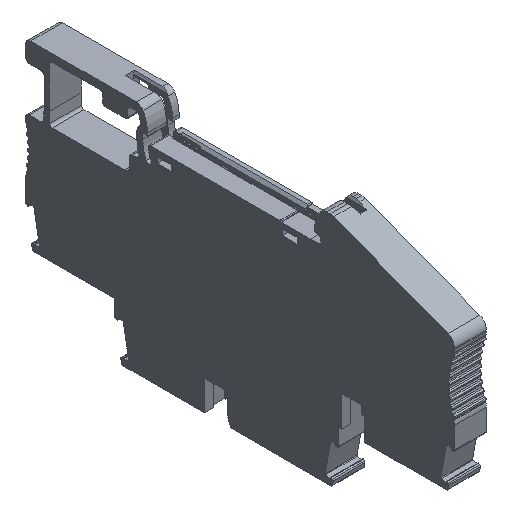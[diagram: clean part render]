
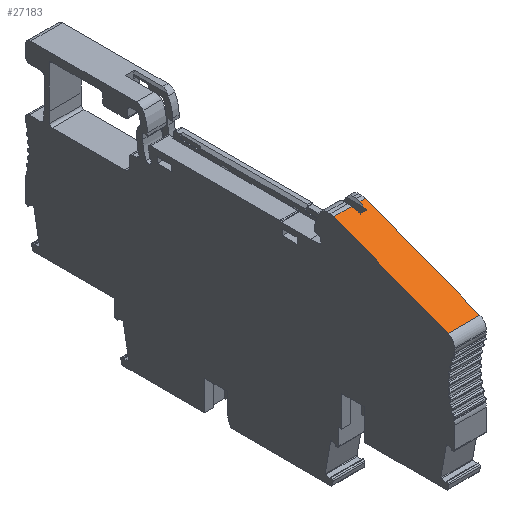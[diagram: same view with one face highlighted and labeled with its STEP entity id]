
A CAD part, isometric view. The second image highlights one B-rep face of the part: STEP entity #27183.
In plain terms, the highlighted planar face has unit normal (0, -0.359, 0.933).
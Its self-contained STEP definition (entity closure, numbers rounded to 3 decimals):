
#836=DIRECTION('',(0.,-0.933,-0.359));
#837=VECTOR('',#836,23.891);
#838=CARTESIAN_POINT('',(0.,-41.094,
45.717));
#839=LINE('',#838,#837);
#2847=DIRECTION('',(0.,0.933,0.359));
#2848=VECTOR('',#2847,23.891);
#2849=CARTESIAN_POINT('',(-6.2,-63.394,
37.143));
#2850=LINE('',#2849,#2848);
#8069=DIRECTION('',(0.,0.933,0.359));
#8070=VECTOR('',#8069,0.566);
#8071=CARTESIAN_POINT('',(-1.3,-42.576,
45.147));
#8072=LINE('',#8071,#8070);
#8643=DIRECTION('',(0.,-0.933,-0.359));
#8644=VECTOR('',#8643,0.566);
#8645=CARTESIAN_POINT('',(-2.5,-42.048,
45.35));
#8646=LINE('',#8645,#8644);
#8886=DIRECTION('',(1.,0.,0.));
#8887=VECTOR('',#8886,1.2);
#8888=CARTESIAN_POINT('',(-2.5,-42.576,
45.147));
#8889=LINE('',#8888,#8887);
#8894=DIRECTION('',(1.,0.,0.));
#8895=VECTOR('',#8894,3.48);
#8896=CARTESIAN_POINT('',(-6.2,-41.094,
45.717));
#8897=LINE('',#8896,#8895);
#9231=DIRECTION('',(0.21,-0.912,-0.351));
#9232=VECTOR('',#9231,1.045);
#9233=CARTESIAN_POINT('',(-2.72,-41.094,
45.717));
#9234=LINE('',#9233,#9232);
#9249=DIRECTION('',(0.21,0.912,0.351));
#9250=VECTOR('',#9249,1.045);
#9251=CARTESIAN_POINT('',(-1.3,-42.048,
45.35));
#9252=LINE('',#9251,#9250);
#9271=DIRECTION('',(1.,0.,0.));
#9272=VECTOR('',#9271,1.08);
#9273=CARTESIAN_POINT('',(-1.08,-41.094,
45.717));
#9274=LINE('',#9273,#9272);
#9303=DIRECTION('',(-1.,0.,0.));
#9304=VECTOR('',#9303,6.2);
#9305=CARTESIAN_POINT('',(0.,-63.394,
37.143));
#9306=LINE('',#9305,#9304);
#13604=CARTESIAN_POINT('',(0.,-41.094,
45.717));
#13605=VERTEX_POINT('',#13604);
#13606=CARTESIAN_POINT('',(0.,-63.394,
37.143));
#13607=VERTEX_POINT('',#13606);
#14017=CARTESIAN_POINT('',(-6.2,-63.394,
37.143));
#14018=VERTEX_POINT('',#14017);
#14019=CARTESIAN_POINT('',(-6.2,-41.094,
45.717));
#14020=VERTEX_POINT('',#14019);
#14444=CARTESIAN_POINT('',(-1.08,-41.094,
45.717));
#14445=VERTEX_POINT('',#14444);
#14446=CARTESIAN_POINT('',(-1.3,-42.048,
45.35));
#14447=VERTEX_POINT('',#14446);
#14448=CARTESIAN_POINT('',(-1.3,-42.576,
45.147));
#14449=VERTEX_POINT('',#14448);
#14450=CARTESIAN_POINT('',(-2.5,-42.576,
45.147));
#14451=VERTEX_POINT('',#14450);
#14452=CARTESIAN_POINT('',(-2.5,-42.048,
45.35));
#14453=VERTEX_POINT('',#14452);
#14454=CARTESIAN_POINT('',(-2.72,-41.094,
45.717));
#14455=VERTEX_POINT('',#14454);
#27161=CARTESIAN_POINT('',(0.,-64.676,
36.65));
#27162=DIRECTION('',(0.,0.359,-0.933));
#27163=DIRECTION('',(0.,0.933,0.359));
#27164=AXIS2_PLACEMENT_3D('',#27161,#27162,#27163);
#27165=PLANE('',#27164);
#27166=ORIENTED_EDGE('',*,*,#18956,.T.);
#27168=ORIENTED_EDGE('',*,*,#27167,.T.);
#27170=ORIENTED_EDGE('',*,*,#27169,.T.);
#27171=ORIENTED_EDGE('',*,*,#26976,.T.);
#27172=ORIENTED_EDGE('',*,*,#27156,.T.);
#27173=ORIENTED_EDGE('',*,*,#26133,.T.);
#27175=ORIENTED_EDGE('',*,*,#27174,.T.);
#27177=ORIENTED_EDGE('',*,*,#27176,.T.);
#27178=ORIENTED_EDGE('',*,*,#17577,.T.);
#27180=ORIENTED_EDGE('',*,*,#27179,.T.);
#27181=EDGE_LOOP('',(#27166,#27168,#27170,#27171,#27172,#27173,#27175,#27177,
#27178,#27180));
#27182=FACE_OUTER_BOUND('',#27181,.F.);
#27183=ADVANCED_FACE('',(#27182),#27165,.F.);
#17577=EDGE_CURVE('',#13605,#13607,#839,.T.);
#18956=EDGE_CURVE('',#14018,#14020,#2850,.T.);
#26133=EDGE_CURVE('',#14449,#14447,#8072,.T.);
#26976=EDGE_CURVE('',#14453,#14451,#8646,.T.);
#27156=EDGE_CURVE('',#14451,#14449,#8889,.T.);
#27167=EDGE_CURVE('',#14020,#14455,#8897,.T.);
#27169=EDGE_CURVE('',#14455,#14453,#9234,.T.);
#27174=EDGE_CURVE('',#14447,#14445,#9252,.T.);
#27176=EDGE_CURVE('',#14445,#13605,#9274,.T.);
#27179=EDGE_CURVE('',#13607,#14018,#9306,.T.);
